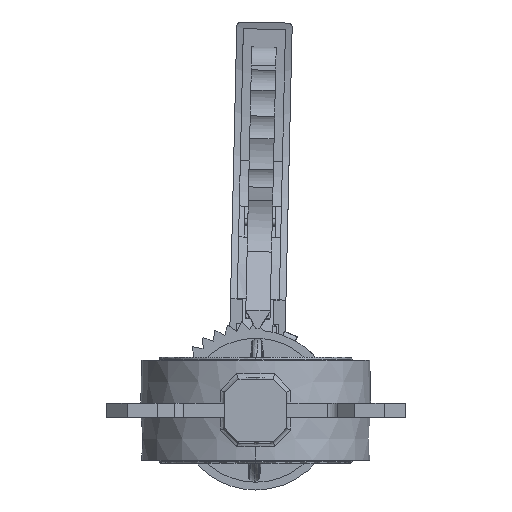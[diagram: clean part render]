
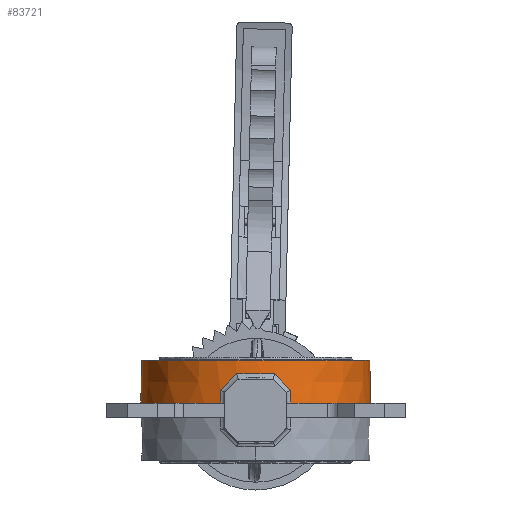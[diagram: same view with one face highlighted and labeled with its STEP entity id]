
A CAD part, front view. The second image highlights one B-rep face of the part: STEP entity #83721.
In plain terms, the highlighted conical face has half-angle 1 degrees and reference radius 51.836 mm.
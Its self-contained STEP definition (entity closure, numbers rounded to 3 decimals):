
#837 = VERTEX_POINT ( 'NONE', #62057 ) ;
#1383 = VERTEX_POINT ( 'NONE', #25290 ) ;
#2684 = EDGE_CURVE ( 'NONE', #40416, #11667, #81157, .T. ) ;
#5626 = CARTESIAN_POINT ( 'NONE',  ( 8.618, -50.881, 16.456 ) ) ;
#6837 = CIRCLE ( 'NONE', #9821, 51.836 ) ;
#7182 = DIRECTION ( 'NONE',  ( 0., 0., -1. ) ) ;
#7517 = ORIENTED_EDGE ( 'NONE', *, *, #7768, .T. ) ;
#7718 = DIRECTION ( 'NONE',  ( -1., 0., 0. ) ) ;
#7768 = EDGE_CURVE ( 'NONE', #40416, #14508, #35665, .T. ) ;
#8009 = CARTESIAN_POINT ( 'NONE',  ( 11.3, -50.476, 13.645 ) ) ;
#8471 = CARTESIAN_POINT ( 'NONE',  ( 15.74, -49.283, 8.992 ) ) ;
#9045 = EDGE_CURVE ( 'NONE', #11667, #83737, #66281, .T. ) ;
#9089 = EDGE_CURVE ( 'NONE', #31888, #52402, #26650, .T. ) ;
#9821 = AXIS2_PLACEMENT_3D ( 'NONE', #56016, #20838, #37060 ) ;
#10247 = AXIS2_PLACEMENT_3D ( 'NONE', #70818, #38277, #43053 ) ;
#10300 = DIRECTION ( 'NONE',  ( 1., 0., 0. ) ) ;
#11667 = VERTEX_POINT ( 'NONE', #72123 ) ;
#11903 = EDGE_CURVE ( 'NONE', #14508, #81618, #54978, .T. ) ;
#11954 = ORIENTED_EDGE ( 'NONE', *, *, #11903, .T. ) ;
#14508 = VERTEX_POINT ( 'NONE', #49233 ) ;
#15109 = CARTESIAN_POINT ( 'NONE',  ( -13.674, -49.904, 11.157 ) ) ;
#17194 = DIRECTION ( 'NONE',  ( 0., 0., 1. ) ) ;
#20838 = DIRECTION ( 'NONE',  ( 0., 0., 1. ) ) ;
#20992 = CARTESIAN_POINT ( 'NONE',  ( -15.741, -49.388, 3.25 ) ) ;
#21573 = CARTESIAN_POINT ( 'NONE',  ( -11.3, -50.476, 13.645 ) ) ;
#22048 = CARTESIAN_POINT ( 'NONE',  ( -15.74, -49.283, 8.992 ) ) ;
#22170 = EDGE_CURVE ( 'NONE', #1383, #837, #58550, .T. ) ;
#22337 = CARTESIAN_POINT ( 'NONE',  ( 15.741, -49.388, 3.25 ) ) ;
#25290 = CARTESIAN_POINT ( 'NONE',  ( 15.74, -49.283, 8.992 ) ) ;
#26650 = CIRCLE ( 'NONE', #78419, 51.605 ) ;
#28427 = FACE_OUTER_BOUND ( 'NONE', #73047, .T. ) ;
#28433 = CARTESIAN_POINT ( 'NONE',  ( -15.741, -49.388, 3.25 ) ) ;
#29117 = DIRECTION ( 'NONE',  ( -0.017, 0., -1. ) ) ;
#29903 = CARTESIAN_POINT ( 'NONE',  ( -8.618, -50.881, 16.456 ) ) ;
#30880 = VECTOR ( 'NONE', #29117, 1000. ) ;
#31888 = VERTEX_POINT ( 'NONE', #39681 ) ;
#34869 = CONICAL_SURFACE ( 'NONE', #42263, 51.836, 0.017 ) ;
#35418 = DIRECTION ( 'NONE',  ( -1., 0., 0. ) ) ;
#35665 = LINE ( 'NONE', #79136, #30880 ) ;
#37060 = DIRECTION ( 'NONE',  ( -1., 0., 0. ) ) ;
#38065 = CARTESIAN_POINT ( 'NONE',  ( 15.74, -49.318, 7.078 ) ) ;
#38277 = DIRECTION ( 'NONE',  ( 0., 0., 1. ) ) ;
#39681 = CARTESIAN_POINT ( 'NONE',  ( -8.618, -50.881, 16.456 ) ) ;
#40416 = VERTEX_POINT ( 'NONE', #84201 ) ;
#41789 = CARTESIAN_POINT ( 'NONE',  ( 13.674, -49.904, 11.157 ) ) ;
#42263 = AXIS2_PLACEMENT_3D ( 'NONE', #49730, #7182, #35418 ) ;
#42823 = ORIENTED_EDGE ( 'NONE', *, *, #69846, .T. ) ;
#43053 = DIRECTION ( 'NONE',  ( -1., 0., 0. ) ) ;
#43256 = CARTESIAN_POINT ( 'NONE',  ( 51.836, 0., 3.25 ) ) ;
#43686 = B_SPLINE_CURVE_WITH_KNOTS ( 'NONE', 3,
 ( #71852, #8009, #41789, #8471 ),
 .UNSPECIFIED., .F., .F.,
 ( 4, 4 ),
 ( 0., 1. ),
 .UNSPECIFIED. ) ;
#45035 = CARTESIAN_POINT ( 'NONE',  ( 15.74, -49.283, 8.992 ) ) ;
#45667 = VERTEX_POINT ( 'NONE', #65831 ) ;
#46054 = ORIENTED_EDGE ( 'NONE', *, *, #9089, .T. ) ;
#47345 = VECTOR ( 'NONE', #71410, 1000. ) ;
#48270 = ORIENTED_EDGE ( 'NONE', *, *, #9045, .F. ) ;
#49233 = CARTESIAN_POINT ( 'NONE',  ( -51.836, 0., 3.25 ) ) ;
#49730 = CARTESIAN_POINT ( 'NONE',  ( 0., 0., 3.25 ) ) ;
#50186 = B_SPLINE_CURVE_WITH_KNOTS ( 'NONE', 3,
 ( #22048, #15109, #21573, #29903 ),
 .UNSPECIFIED., .F., .F.,
 ( 4, 4 ),
 ( 0., 1. ),
 .UNSPECIFIED. ) ;
#52402 = VERTEX_POINT ( 'NONE', #5626 ) ;
#52497 = EDGE_CURVE ( 'NONE', #837, #83737, #6837, .T. ) ;
#54978 = CIRCLE ( 'NONE', #90439, 51.836 ) ;
#55723 = B_SPLINE_CURVE_WITH_KNOTS ( 'NONE', 3,
 ( #28433, #84916, #57107, #70114 ),
 .UNSPECIFIED., .F., .F.,
 ( 4, 4 ),
 ( 0., 1. ),
 .UNSPECIFIED. ) ;
#56016 = CARTESIAN_POINT ( 'NONE',  ( 0., 0., 3.25 ) ) ;
#57107 = CARTESIAN_POINT ( 'NONE',  ( -15.74, -49.318, 7.078 ) ) ;
#57656 = CARTESIAN_POINT ( 'NONE',  ( 0., 0., 3.25 ) ) ;
#58550 = B_SPLINE_CURVE_WITH_KNOTS ( 'NONE', 3,
 ( #45035, #38065, #66303, #22337 ),
 .UNSPECIFIED., .F., .F.,
 ( 4, 4 ),
 ( 0., 1. ),
 .UNSPECIFIED. ) ;
#58617 = ORIENTED_EDGE ( 'NONE', *, *, #52497, .T. ) ;
#60745 = CARTESIAN_POINT ( 'NONE',  ( 0., 0., 16.456 ) ) ;
#61635 = ORIENTED_EDGE ( 'NONE', *, *, #2684, .F. ) ;
#62057 = CARTESIAN_POINT ( 'NONE',  ( 15.741, -49.388, 3.25 ) ) ;
#63771 = ORIENTED_EDGE ( 'NONE', *, *, #83487, .T. ) ;
#65831 = CARTESIAN_POINT ( 'NONE',  ( -15.74, -49.283, 8.992 ) ) ;
#66281 = LINE ( 'NONE', #87580, #47345 ) ;
#66303 = CARTESIAN_POINT ( 'NONE',  ( 15.74, -49.353, 5.164 ) ) ;
#68187 = ORIENTED_EDGE ( 'NONE', *, *, #22170, .T. ) ;
#69846 = EDGE_CURVE ( 'NONE', #81618, #45667, #55723, .T. ) ;
#70114 = CARTESIAN_POINT ( 'NONE',  ( -15.74, -49.283, 8.992 ) ) ;
#70818 = CARTESIAN_POINT ( 'NONE',  ( 0., 0., 22.5 ) ) ;
#71105 = DIRECTION ( 'NONE',  ( 0., 0., 1. ) ) ;
#71410 = DIRECTION ( 'NONE',  ( 0.017, 0., -1. ) ) ;
#71852 = CARTESIAN_POINT ( 'NONE',  ( 8.618, -50.881, 16.456 ) ) ;
#72123 = CARTESIAN_POINT ( 'NONE',  ( 51.5, 0., 22.5 ) ) ;
#73047 = EDGE_LOOP ( 'NONE', ( #48270, #61635, #7517, #11954, #42823, #63771, #46054, #87684, #68187, #58617 ) ) ;
#75383 = EDGE_CURVE ( 'NONE', #52402, #1383, #43686, .T. ) ;
#78419 = AXIS2_PLACEMENT_3D ( 'NONE', #60745, #17194, #10300 ) ;
#79136 = CARTESIAN_POINT ( 'NONE',  ( -51.836, 0., 3.25 ) ) ;
#81157 = CIRCLE ( 'NONE', #10247, 51.5 ) ;
#81618 = VERTEX_POINT ( 'NONE', #20992 ) ;
#83487 = EDGE_CURVE ( 'NONE', #45667, #31888, #50186, .T. ) ;
#83721 = ADVANCED_FACE ( 'NONE', ( #28427 ), #34869, .T. ) ;
#83737 = VERTEX_POINT ( 'NONE', #43256 ) ;
#84201 = CARTESIAN_POINT ( 'NONE',  ( -51.5, 0., 22.5 ) ) ;
#84916 = CARTESIAN_POINT ( 'NONE',  ( -15.74, -49.353, 5.164 ) ) ;
#87580 = CARTESIAN_POINT ( 'NONE',  ( 51.836, 0., 3.25 ) ) ;
#87684 = ORIENTED_EDGE ( 'NONE', *, *, #75383, .T. ) ;
#90439 = AXIS2_PLACEMENT_3D ( 'NONE', #57656, #71105, #7718 ) ;
